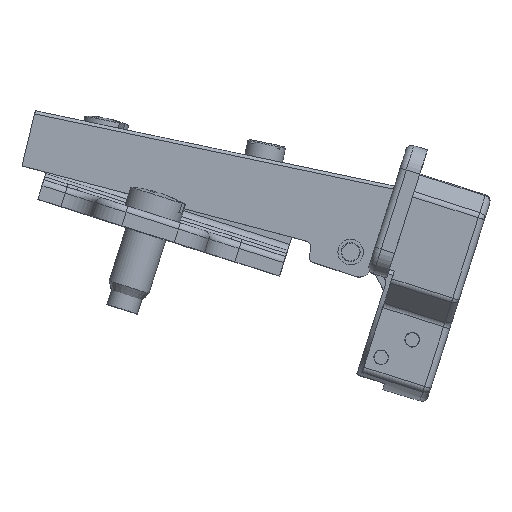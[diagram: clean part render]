
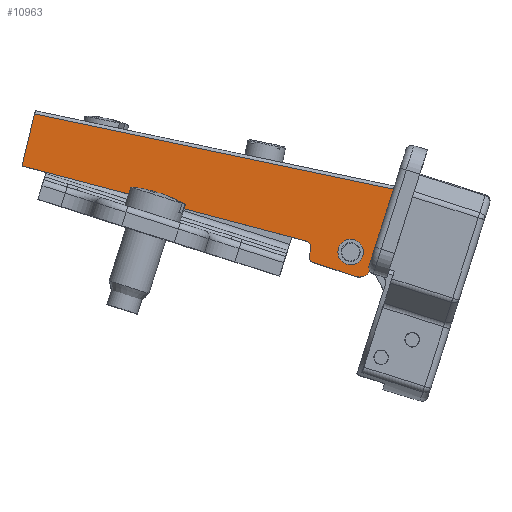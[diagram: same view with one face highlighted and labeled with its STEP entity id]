
A CAD part, top view. The second image highlights one B-rep face of the part: STEP entity #10963.
In plain terms, the highlighted planar face has unit normal (0, 0, 1).
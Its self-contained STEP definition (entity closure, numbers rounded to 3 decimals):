
#1150=LINE('',#20269,#1923);
#1154=LINE('',#20282,#1927);
#1156=LINE('',#20291,#1929);
#1163=LINE('',#20310,#1936);
#1165=LINE('',#20317,#1938);
#1170=LINE('',#20326,#1943);
#1179=LINE('',#20385,#1952);
#1183=LINE('',#20414,#1956);
#1923=VECTOR('',#15588,8.4);
#1927=VECTOR('',#15604,46.001);
#1929=VECTOR('',#15612,0.824);
#1936=VECTOR('',#15631,1.048);
#1938=VECTOR('',#15639,3.939);
#1943=VECTOR('',#15648,6.887);
#1952=VECTOR('',#15699,57.437);
#1956=VECTOR('',#15717,8.752);
#2183=PLANE('',#12299);
#2285=FACE_BOUND('',#3697,.T.);
#2939=FACE_OUTER_BOUND('',#3696,.T.);
#3696=EDGE_LOOP('',(#9986,#9987,#9988,#9989,#9990,#9991,#9992,#9993,#9994,
#9995,#9996));
#3697=EDGE_LOOP('',(#9997));
#4348=CIRCLE('',#12264,1.);
#4349=CIRCLE('',#12267,1.);
#4350=CIRCLE('',#12272,2.);
#4351=CIRCLE('',#12274,1.5);
#5310=VERTEX_POINT('',#20266);
#5311=VERTEX_POINT('',#20268);
#5314=VERTEX_POINT('',#20280);
#5317=VERTEX_POINT('',#20288);
#5318=VERTEX_POINT('',#20290);
#5323=VERTEX_POINT('',#20304);
#5324=VERTEX_POINT('',#20308);
#5325=VERTEX_POINT('',#20312);
#5326=VERTEX_POINT('',#20316);
#5328=VERTEX_POINT('',#20324);
#5329=VERTEX_POINT('',#20330);
#5341=VERTEX_POINT('',#20384);
#6841=EDGE_CURVE('',#5310,#5311,#1150,.T.);
#6848=EDGE_CURVE('',#5314,#5310,#1154,.T.);
#6852=EDGE_CURVE('',#5317,#5318,#1156,.T.);
#6860=EDGE_CURVE('',#5323,#5314,#4348,.T.);
#6862=EDGE_CURVE('',#5324,#5323,#1163,.T.);
#6864=EDGE_CURVE('',#5325,#5324,#4349,.T.);
#6865=EDGE_CURVE('',#5318,#5326,#1165,.T.);
#6870=EDGE_CURVE('',#5328,#5325,#1170,.T.);
#6871=EDGE_CURVE('',#5326,#5328,#4350,.T.);
#6872=EDGE_CURVE('',#5329,#5329,#4351,.T.);
#6892=EDGE_CURVE('',#5311,#5341,#1179,.T.);
#6901=EDGE_CURVE('',#5341,#5317,#1183,.T.);
#9986=ORIENTED_EDGE('',*,*,#6892,.F.);
#9987=ORIENTED_EDGE('',*,*,#6841,.F.);
#9988=ORIENTED_EDGE('',*,*,#6848,.F.);
#9989=ORIENTED_EDGE('',*,*,#6860,.F.);
#9990=ORIENTED_EDGE('',*,*,#6862,.F.);
#9991=ORIENTED_EDGE('',*,*,#6864,.F.);
#9992=ORIENTED_EDGE('',*,*,#6870,.F.);
#9993=ORIENTED_EDGE('',*,*,#6871,.F.);
#9994=ORIENTED_EDGE('',*,*,#6865,.F.);
#9995=ORIENTED_EDGE('',*,*,#6852,.F.);
#9996=ORIENTED_EDGE('',*,*,#6901,.F.);
#9997=ORIENTED_EDGE('',*,*,#6872,.F.);
#10963=ADVANCED_FACE('',(#2939,#2285),#2183,.F.);
#12264=AXIS2_PLACEMENT_3D('',#20306,#15626,#15627);
#12267=AXIS2_PLACEMENT_3D('',#20314,#15635,#15636);
#12272=AXIS2_PLACEMENT_3D('',#20328,#15651,#15652);
#12274=AXIS2_PLACEMENT_3D('',#20331,#15655,#15656);
#12299=AXIS2_PLACEMENT_3D('',#20415,#15718,#15719);
#15588=DIRECTION('',(0.,1.,0.));
#15604=DIRECTION('',(-1.,0.021,0.));
#15612=DIRECTION('',(-0.999,0.053,0.));
#15626=DIRECTION('center_axis',(0.,0.,1.));
#15627=DIRECTION('ref_axis',(0.705,0.709,0.));
#15631=DIRECTION('',(-0.027,1.,0.));
#15635=DIRECTION('center_axis',(0.,0.,-1.));
#15636=DIRECTION('ref_axis',(-0.726,-0.688,0.));
#15639=DIRECTION('',(0.021,-1.,0.));
#15648=DIRECTION('',(-0.997,0.08,0.));
#15651=DIRECTION('center_axis',(0.,0.,-1.));
#15652=DIRECTION('ref_axis',(0.686,-0.728,0.));
#15655=DIRECTION('center_axis',(0.,0.,1.));
#15656=DIRECTION('ref_axis',(-1.,0.,0.));
#15699=DIRECTION('',(1.,0.031,0.));
#15717=DIRECTION('',(0.031,-1.,0.));
#15718=DIRECTION('center_axis',(0.,0.,-1.));
#15719=DIRECTION('ref_axis',(1.,0.031,0.));
#20266=CARTESIAN_POINT('',(-53.179,0.968,8.15));
#20268=CARTESIAN_POINT('',(-53.179,9.368,8.15));
#20269=CARTESIAN_POINT('',(-53.179,9.864,8.15));
#20280=CARTESIAN_POINT('',(-7.188,0.023,8.15));
#20282=CARTESIAN_POINT('',(-53.409,0.973,8.15));
#20288=CARTESIAN_POINT('',(4.503,2.409,8.15));
#20290=CARTESIAN_POINT('',(3.679,2.453,8.15));
#20291=CARTESIAN_POINT('',(-25.004,3.968,8.15));
#20304=CARTESIAN_POINT('',(-6.209,-0.95,8.15));
#20306=CARTESIAN_POINT('Origin',(-7.208,-0.977,8.15));
#20308=CARTESIAN_POINT('',(-6.181,-1.998,8.15));
#20310=CARTESIAN_POINT('',(-6.383,5.56,8.15));
#20312=CARTESIAN_POINT('',(-5.261,-2.968,8.15));
#20314=CARTESIAN_POINT('Origin',(-5.181,-1.971,8.15));
#20316=CARTESIAN_POINT('',(3.764,-1.485,8.15));
#20317=CARTESIAN_POINT('',(3.653,3.688,8.15));
#20324=CARTESIAN_POINT('',(1.603,-3.522,8.15));
#20326=CARTESIAN_POINT('',(-30.164,-0.96,8.15));
#20328=CARTESIAN_POINT('Origin',(1.764,-1.528,8.15));
#20330=CARTESIAN_POINT('',(1.5,0.,8.15));
#20331=CARTESIAN_POINT('Origin',(0.,0.,8.15));
#20384=CARTESIAN_POINT('',(4.23,11.157,8.15));
#20385=CARTESIAN_POINT('',(-24.355,10.266,8.15));
#20414=CARTESIAN_POINT('',(4.214,11.657,8.15));
#20415=CARTESIAN_POINT('Origin',(-53.456,9.859,8.15));
